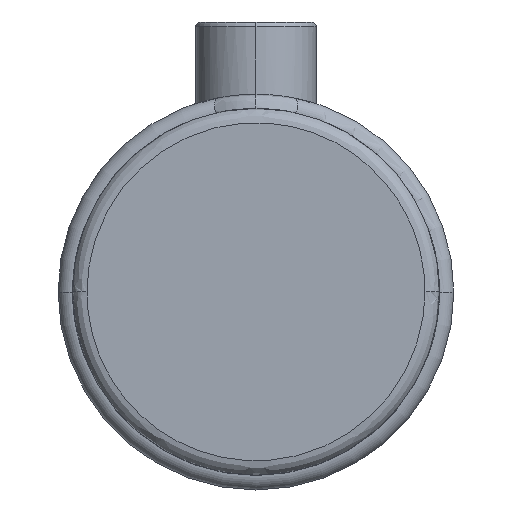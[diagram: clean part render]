
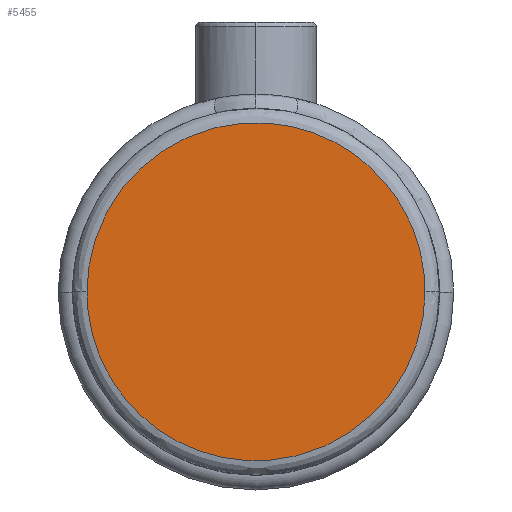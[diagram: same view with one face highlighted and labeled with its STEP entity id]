
A CAD part, top view. The second image highlights one B-rep face of the part: STEP entity #5455.
In plain terms, the highlighted planar face has unit normal (0, 0, 1).
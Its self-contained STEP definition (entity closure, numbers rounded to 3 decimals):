
#59 = CARTESIAN_POINT ( 'NONE',  ( 35.1, -70.2, 50. ) ) ;
#928 = CARTESIAN_POINT ( 'NONE',  ( -35.1, 0., 50. ) ) ;
#1179 = CARTESIAN_POINT ( 'NONE',  ( 35.1, 0., 50. ) ) ;
#2890 = PLANE ( 'NONE',  #4806 ) ;
#3526 = ORIENTED_EDGE ( 'NONE', *, *, #6808, .F. ) ;
#3543 = CARTESIAN_POINT ( 'NONE',  ( -35.1, 0., 50. ) ) ;
#4018 = EDGE_CURVE ( 'NONE', #5157, #8272, #6827, .T. ) ;
#4582 = DIRECTION ( 'NONE',  ( 0., 0., 1. ) ) ;
#4806 = AXIS2_PLACEMENT_3D ( 'NONE', #9639, #4582, #10483 ) ;
#4969 = EDGE_LOOP ( 'NONE', ( #3526, #5773 ) ) ;
#5097 = CARTESIAN_POINT ( 'NONE',  ( 35.1, 0., 50. ) ) ;
#5157 = VERTEX_POINT ( 'NONE', #3543 ) ;
#5455 = ADVANCED_FACE ( 'NONE', ( #9944 ), #2890, .T. ) ;
#5746 =( BOUNDED_CURVE ( )  B_SPLINE_CURVE ( 3, ( #5097, #59, #5947, #928 ),
 .UNSPECIFIED., .F., .T. ) 
 B_SPLINE_CURVE_WITH_KNOTS ( ( 4, 4 ),
 ( 0.25, 0.75 ),
 .UNSPECIFIED. ) 
 CURVE ( )  GEOMETRIC_REPRESENTATION_ITEM ( )  RATIONAL_B_SPLINE_CURVE ( ( 1., 0.333, 0.333, 1. ) ) 
 REPRESENTATION_ITEM ( '' )  );
#5773 = ORIENTED_EDGE ( 'NONE', *, *, #4018, .F. ) ;
#5947 = CARTESIAN_POINT ( 'NONE',  ( -35.1, -70.2, 50. ) ) ;
#5967 = CARTESIAN_POINT ( 'NONE',  ( -35.1, 70.2, 50. ) ) ;
#6808 = EDGE_CURVE ( 'NONE', #8272, #5157, #5746, .T. ) ;
#6827 =( BOUNDED_CURVE ( )  B_SPLINE_CURVE ( 3, ( #8513, #5967, #7666, #9367 ),
 .UNSPECIFIED., .F., .T. ) 
 B_SPLINE_CURVE_WITH_KNOTS ( ( 4, 4 ),
 ( 0.75, 1.25 ),
 .UNSPECIFIED. ) 
 CURVE ( )  GEOMETRIC_REPRESENTATION_ITEM ( )  RATIONAL_B_SPLINE_CURVE ( ( 1., 0.333, 0.333, 1. ) ) 
 REPRESENTATION_ITEM ( '' )  );
#7666 = CARTESIAN_POINT ( 'NONE',  ( 35.1, 70.2, 50. ) ) ;
#8272 = VERTEX_POINT ( 'NONE', #1179 ) ;
#8513 = CARTESIAN_POINT ( 'NONE',  ( -35.1, 0., 50. ) ) ;
#9367 = CARTESIAN_POINT ( 'NONE',  ( 35.1, 0., 50. ) ) ;
#9639 = CARTESIAN_POINT ( 'NONE',  ( 0., 19.05, 50. ) ) ;
#9944 = FACE_OUTER_BOUND ( 'NONE', #4969, .T. ) ;
#10483 = DIRECTION ( 'NONE',  ( 1., 0., 0. ) ) ;
